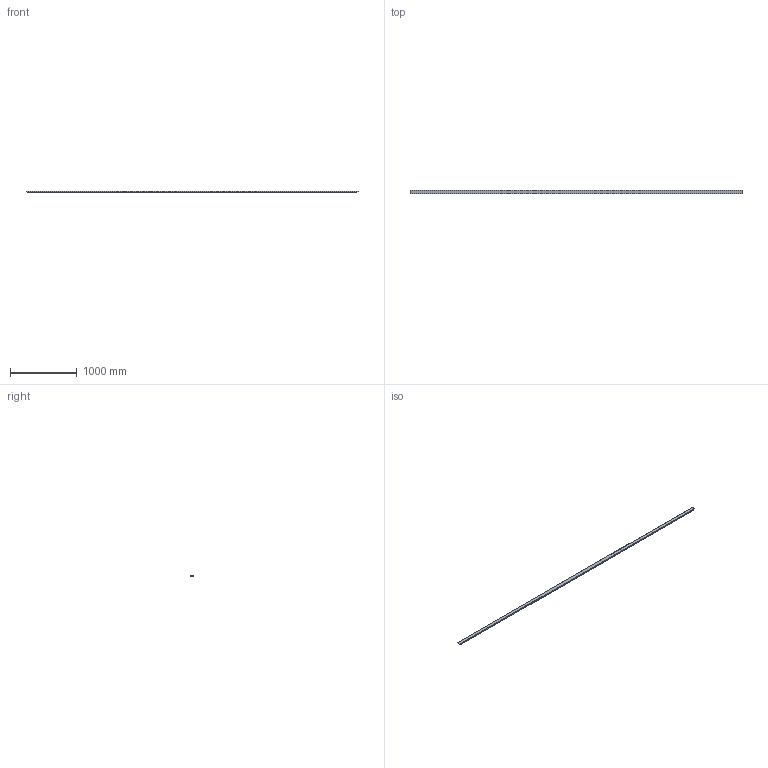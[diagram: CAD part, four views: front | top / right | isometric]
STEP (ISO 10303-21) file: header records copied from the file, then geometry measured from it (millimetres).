
FILE_DESCRIPTION(/* description */ (''),/* implementation_level */ '2;1');
FILE_NAME(/* name */ 'Pos114-Koker 50x20x2 EN 10219-2-S235JRH-2st',/* time_stamp */ '2024-08-06T13:49:48+02:00',/* author */ (''),/* organization */ (''),/* preprocessor_version */ 'ST-DEVELOPER v16.5',/* originating_system */ 'HiCAD 2024 2901.2 Build 361',/* authorisation */ '');
FILE_SCHEMA (('AUTOMOTIVE_DESIGN { 1 0 10303 214 1 1 1 1 }'));
Length unit declared in the file: millimetre
Products named in the file (1): Pos114-Koker 50x20x2 EN 10219-2-S235JRH-2st
Bounding box: 4980 x 50 x 20 mm (x, y, z)
Volume: 1309440 mm3; surface area: 1310186.7 mm2
Topology: 1 solids, 1 shells, 10 faces, 24 edges, 16 vertices
Faces by surface type: plane 10
Entity records: 550 total; most frequent: CARTESIAN_POINT 50, PRESENTATION_STYLE_ASSIGNMENT 49, COLOUR_RGB 49, DRAUGHTING_PRE_DEFINED_CURVE_FONT 48, CURVE_STYLE 48, OVER_RIDING_STYLED_ITEM 48, ORIENTED_EDGE 48, DIRECTION 44
